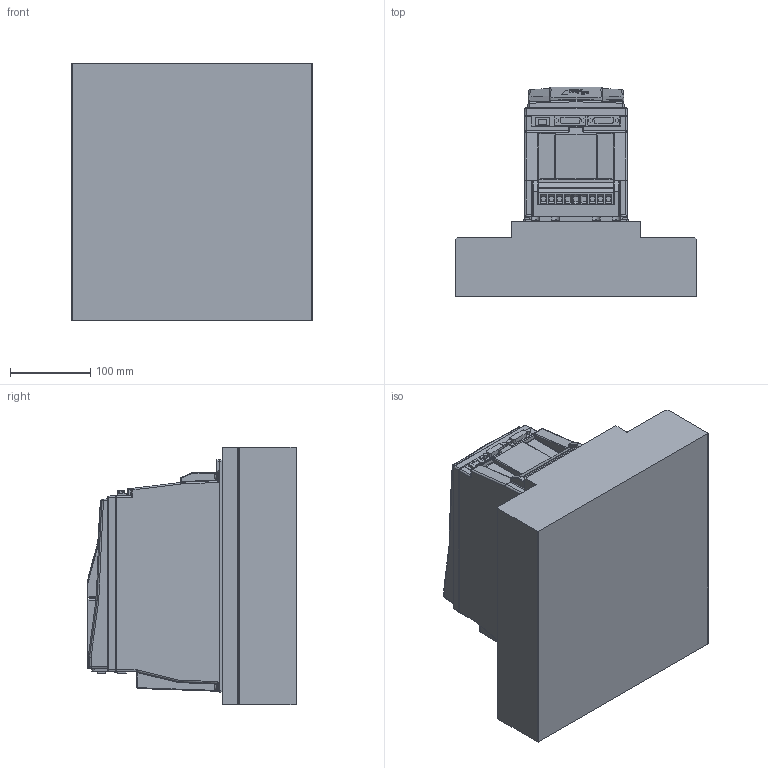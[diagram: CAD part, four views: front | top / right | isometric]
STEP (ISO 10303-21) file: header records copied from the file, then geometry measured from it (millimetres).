
FILE_DESCRIPTION (( 'STEP AP214' ), '1' );
FILE_NAME ('10070255_000-4.STEP', '2022-06-13T08:42:29', ( '' ), ( '' ), 'SwSTEP 2.0', 'SolidWorks 2019', '' );
FILE_SCHEMA (( 'AUTOMOTIVE_DESIGN' ));
Length unit declared in the file: millimetre
Products named in the file (3): 10070255_000-4; Kundenmodell; Abdeckung
Assembly tree (2 placements, depth 2):
  10070255_000-4
    Kundenmodell
    Abdeckung
Bounding box: 300 x 261 x 321 mm (x, y, z)
Volume: 12963373 mm3; surface area: 462464.8 mm2
Topology: 2 solids, 3 shells, 1198 faces, 2970 edges, 1794 vertices
Faces by surface type: plane 573, cylinder 312, bspline 165, torus 64, cone 48, sphere 36
Full cylindrical faces by diameter (mm): 3.3 x4, 5 x6, 5.4 x2, 7 x4
Entity records: 41862 total; most frequent: CARTESIAN_POINT 14934, ORIENTED_EDGE 5748, DIRECTION 5157, EDGE_CURVE 2874, VERTEX_POINT 1780, AXIS2_PLACEMENT_3D 1723, LINE 1711, VECTOR 1711
